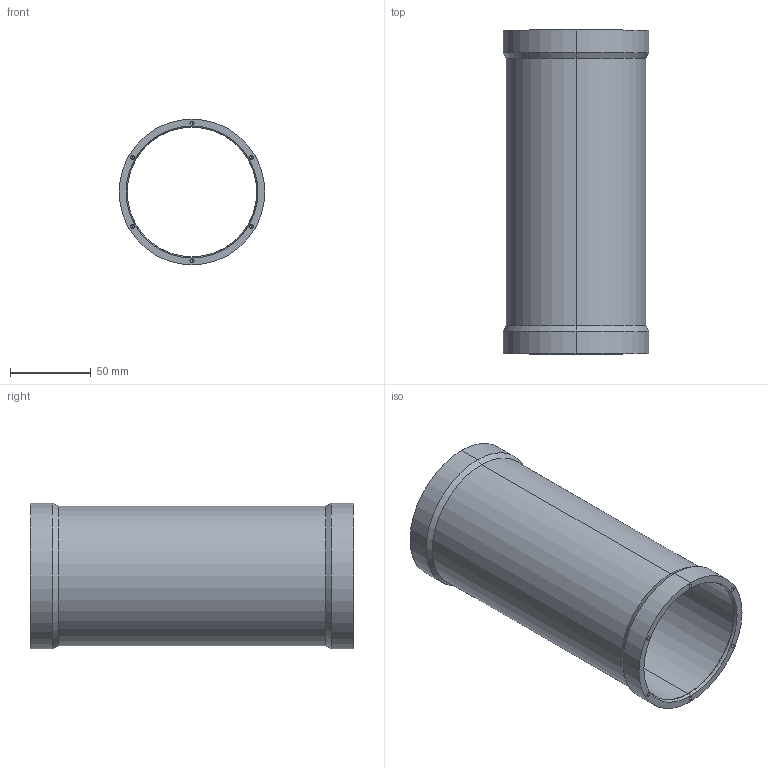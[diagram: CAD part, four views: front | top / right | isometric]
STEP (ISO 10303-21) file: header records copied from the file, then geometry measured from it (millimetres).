
FILE_DESCRIPTION (( 'STEP AP214' ), '1' );
FILE_NAME ('90臏磁踢累奪.STEP', '2023-06-12T02:03:19', ( '' ), ( '' ), 'SwSTEP 2.0', 'SolidWorks 2020', '' );
FILE_SCHEMA (( 'AUTOMOTIVE_DESIGN' ));
Length unit declared in the file: millimetre
Products named in the file (1): 90臏磁踢累奪
Bounding box: 90 x 200 x 90 mm (x, y, z)
Volume: 173096.7 mm3; surface area: 107941.5 mm2
Topology: 1 solids, 1 shells, 70 faces, 164 edges, 84 vertices
Faces by surface type: cone 32, cylinder 32, torus 4, plane 2
Entity records: 2118 total; most frequent: DIRECTION 358, CARTESIAN_POINT 295, ORIENTED_EDGE 280, AXIS2_PLACEMENT_3D 147, EDGE_CURVE 140, EDGE_LOOP 84, VERTEX_POINT 84, CIRCLE 76
